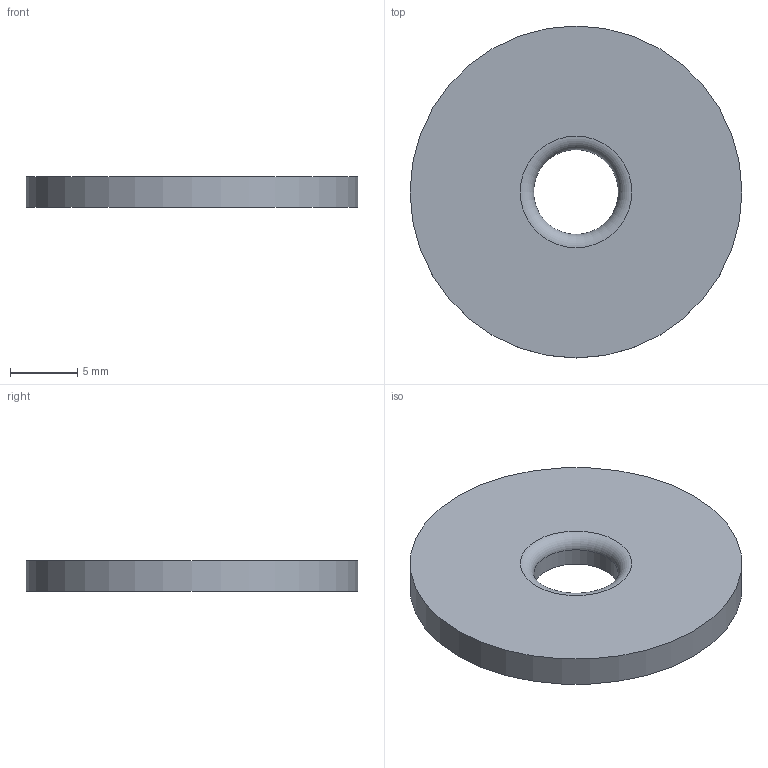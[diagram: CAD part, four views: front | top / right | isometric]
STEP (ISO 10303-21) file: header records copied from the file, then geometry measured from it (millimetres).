
FILE_DESCRIPTION(('FreeCAD Model'),'2;1');
FILE_NAME('Open CASCADE Shape Model','2026-10-09T19:39:09',(''),(''), 'Open CASCADE STEP processor 7.8','FreeCAD','Unknown');
FILE_SCHEMA(('AUTOMOTIVE_DESIGN { 1 0 10303 214 1 1 1 1 }'));
Length unit declared in the file: millimetre
Products named in the file (1): Body
Bounding box: 24.75 x 24.75 x 2.31 mm (x, y, z)
Volume: 1032.5 mm3; surface area: 1116.4 mm2
Topology: 1 solids, 1 shells, 5 faces, 8 edges, 5 vertices
Faces by surface type: cylinder 2, plane 2, torus 1
Full cylindrical faces by diameter (mm): 6.325 x1, 24.749 x1
Entity records: 146 total; most frequent: DIRECTION 26, CARTESIAN_POINT 19, ORIENTED_EDGE 16, AXIS2_PLACEMENT_3D 12, EDGE_CURVE 8, FACE_BOUND 7, EDGE_LOOP 7, CIRCLE 6
